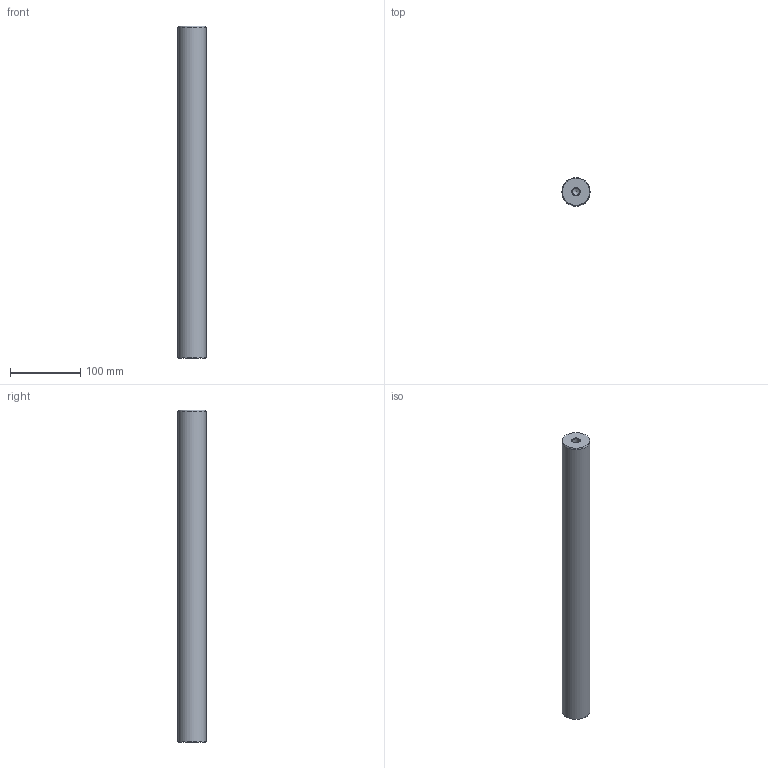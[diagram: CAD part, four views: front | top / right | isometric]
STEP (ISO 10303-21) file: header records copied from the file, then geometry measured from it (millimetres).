
FILE_DESCRIPTION( ( 'STEP AP214' ), '1' );
FILE_NAME( 'U:/Etudes/Top Solid/BIBLIO 3D AVM/STEP/G_GUIDAGE/Accessoires/Colonnes/Ø40x473.step', '2007-06-18T12:30:16', ( ' ' ), ( ' ' ), 'XStep 1.0', ' ', ' ' );
FILE_SCHEMA( ( 'automotive_design' ) );
Length unit declared in the file: metre
Products named in the file (1): 1
Bounding box: 40 x 40 x 473 mm (x, y, z)
Volume: 589030.4 mm3; surface area: 63833.9 mm2
Topology: 1 solids, 1 shells, 13 faces, 27 edges, 16 vertices
Faces by surface type: cone 6, cylinder 5, plane 2
Full cylindrical faces by diameter (mm): 10.106 x4, 40 x1
Entity records: 382 total; most frequent: DIRECTION 52, CARTESIAN_POINT 40, AXIS2_PLACEMENT_3D 26, EDGE_LOOP 24, ORIENTED_EDGE 24, FACE_OUTER_BOUND 18, VERTEX_POINT 14, STYLED_ITEM 13
